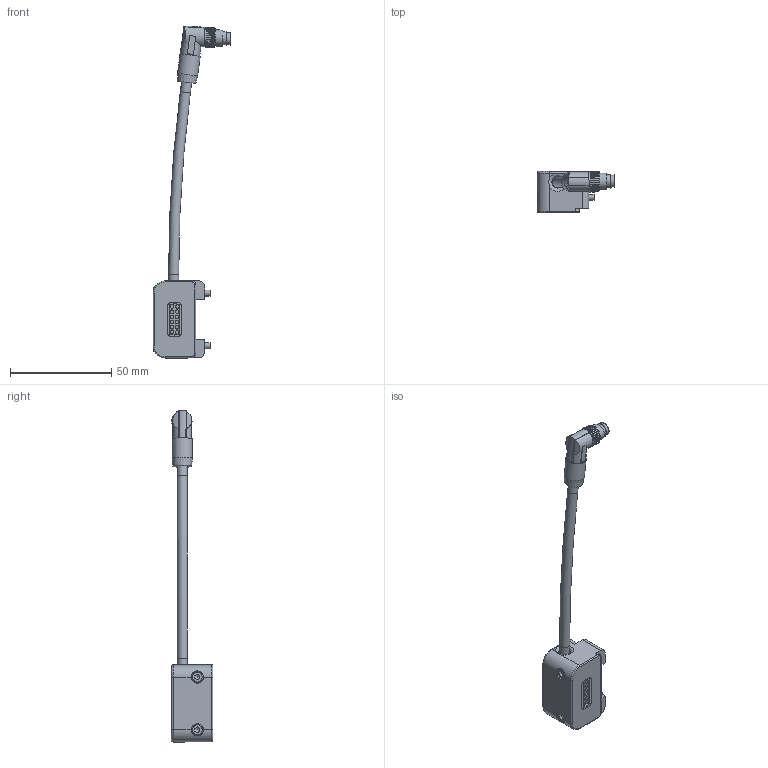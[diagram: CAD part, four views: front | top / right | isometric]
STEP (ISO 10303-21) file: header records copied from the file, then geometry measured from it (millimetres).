
FILE_DESCRIPTION(/* description */ (''),/* implementation_level */ '2;1');
FILE_NAME(/* name */ 'G-SEK100-O-1FE12-300-M8-SW.stp',/* time_stamp */ '2025-01-08T13:21:10+01:00',/* author */ ('vbednarz'),/* organization */ (''),/* preprocessor_version */ 'ST-DEVELOPER v20',/* originating_system */ 'Autodesk Inventor 2024',/* authorisation */ '');
FILE_SCHEMA (('AUTOMOTIVE_DESIGN { 1 0 10303 214 3 1 1 }'));
Length unit declared in the file: millimetre
Products named in the file (1): G-SEK100-O-1FE12-300-M8-SW
Bounding box: 38.43 x 20.45 x 163.62 mm (x, y, z)
Volume: 19258.9 mm3; surface area: 12551 mm2
Topology: 7 solids, 8 shells, 640 faces, 1600 edges, 1050 vertices
Faces by surface type: plane 345, cylinder 237, cone 20, torus 18, bspline 12, sphere 8
Full cylindrical faces by diameter (mm): 0.6 x8, 1.35 x12, 1.8 x2, 1.83 x12, 2 x2, 2.02 x2, 3 x2, 3.4 x2, 4.5 x4, 5 x6, 5.5 x2, 5.8 x2, 6 x2, 6.3 x1, 8 x1, 9.4 x1, 10 x1
Entity records: 20376 total; most frequent: CARTESIAN_POINT 3973, DIRECTION 3382, ORIENTED_EDGE 3168, EDGE_CURVE 1584, AXIS2_PLACEMENT_3D 1243, VERTEX_POINT 1050, LINE 896, VECTOR 896
